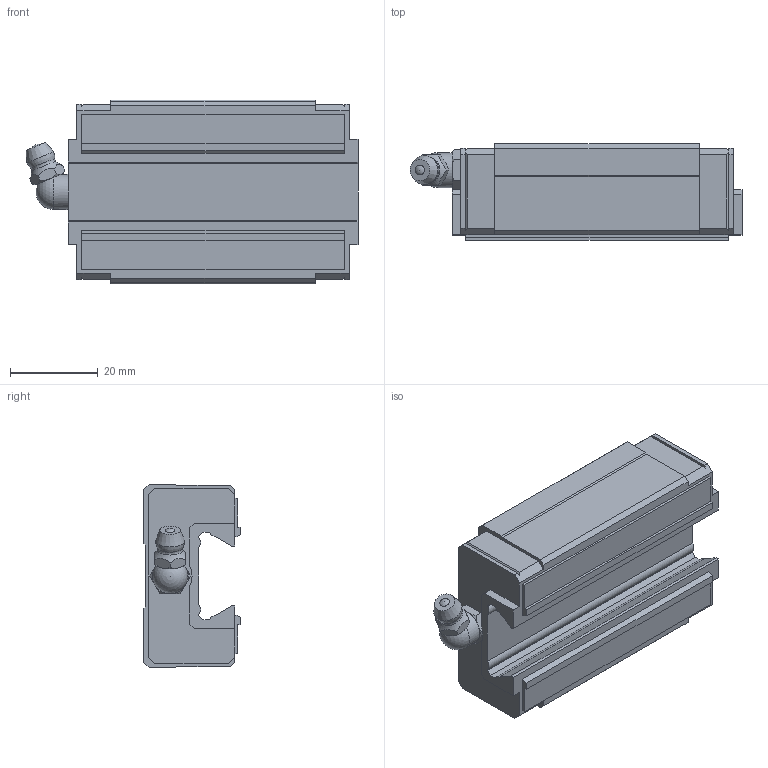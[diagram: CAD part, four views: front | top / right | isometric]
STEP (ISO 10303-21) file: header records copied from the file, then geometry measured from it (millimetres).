
FILE_DESCRIPTION(/* description */ ('STEP AP214'),/* implementation_level */ '2;1');
FILE_NAME(/* name */ 'SR20W1SS(GK) BLOCK(B-M6F1)',/* time_stamp */ '2023-06-01T09:46:06+02:00',/* author */ ('License CC BY-ND 4.0'),/* organization */ ('CADENAS'),/* preprocessor_version */ 'ST-DEVELOPER v19.3',/* originating_system */ 'PARTsolutions',/* authorisation */ ' ');
FILE_SCHEMA (('AUTOMOTIVE_DESIGN {1 0 10303 214 3 1 1}'));
Length unit declared in the file: millimetre
Products named in the file (3): SR20W1SS(GK) BLOCK(B-M6F1); SR-B-M6F_gnj; SR20WSSB-M6F1 S
Assembly tree (2 placements, depth 2):
  SR20W1SS(GK) BLOCK(B-M6F1)
    SR-B-M6F_gnj
    SR20WSSB-M6F1 S
Bounding box: 75.8 x 22 x 42 mm (x, y, z)
Volume: 44592.6 mm3; surface area: 12469.3 mm2
Topology: 2 solids, 2 shells, 154 faces, 418 edges, 271 vertices
Faces by surface type: plane 112, cone 21, cylinder 16, sphere 3, torus 2
Full cylindrical faces by diameter (mm): 4.134 x4, 4.917 x2, 6 x1, 8 x1
Entity records: 4679 total; most frequent: CARTESIAN_POINT 900, ORIENTED_EDGE 756, DIRECTION 726, EDGE_CURVE 378, LINE 296, VECTOR 296, VERTEX_POINT 265, AXIS2_PLACEMENT_3D 215
